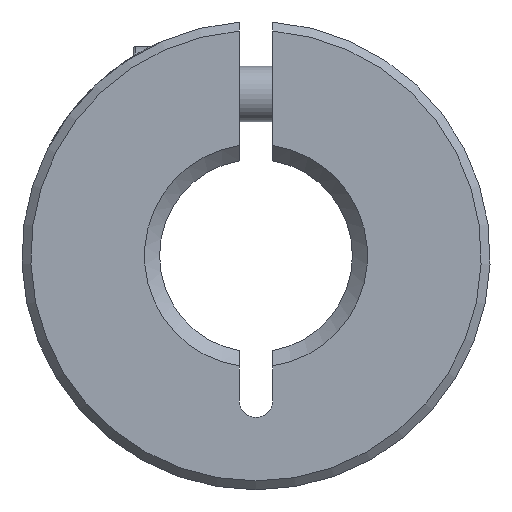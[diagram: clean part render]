
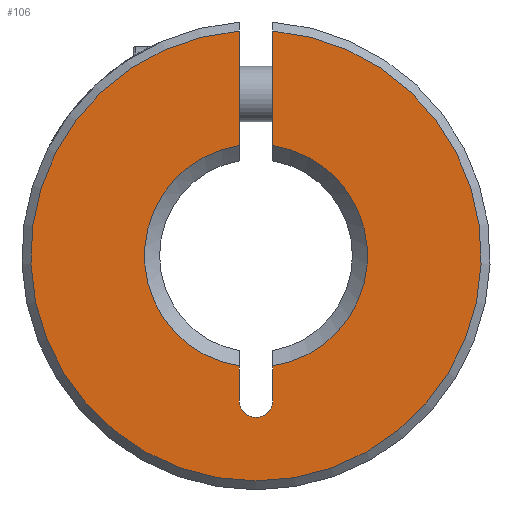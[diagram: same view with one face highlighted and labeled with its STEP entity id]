
A CAD part, left-side view. The second image highlights one B-rep face of the part: STEP entity #106.
In plain terms, the highlighted planar face has unit normal (-1, 0, 0).
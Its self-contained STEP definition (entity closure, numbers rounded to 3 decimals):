
#106 = ADVANCED_FACE( '', ( #180 ), #181, .F. );
#180 = FACE_OUTER_BOUND( '', #257, .T. );
#181 = PLANE( '', #258 );
#257 = EDGE_LOOP( '', ( #490, #491, #492, #493, #494, #495, #496, #497 ) );
#258 = AXIS2_PLACEMENT_3D( '', #498, #499, #500 );
#490 = ORIENTED_EDGE( '', *, *, #578, .T. );
#491 = ORIENTED_EDGE( '', *, *, #545, .T. );
#492 = ORIENTED_EDGE( '', *, *, #554, .T. );
#493 = ORIENTED_EDGE( '', *, *, #536, .F. );
#494 = ORIENTED_EDGE( '', *, *, #532, .T. );
#495 = ORIENTED_EDGE( '', *, *, #541, .T. );
#496 = ORIENTED_EDGE( '', *, *, #516, .T. );
#497 = ORIENTED_EDGE( '', *, *, #580, .T. );
#498 = CARTESIAN_POINT( '', ( -7.5, 0., 0. ) );
#499 = DIRECTION( '', ( 1., 0., 0. ) );
#500 = DIRECTION( '', ( 0., 0., -1. ) );
#516 = EDGE_CURVE( '', #609, #607, #610, .T. );
#532 = EDGE_CURVE( '', #626, #639, #641, .T. );
#536 = EDGE_CURVE( '', #626, #647, #648, .T. );
#541 = EDGE_CURVE( '', #639, #609, #654, .T. );
#545 = EDGE_CURVE( '', #661, #659, #662, .T. );
#554 = EDGE_CURVE( '', #659, #647, #673, .T. );
#578 = EDGE_CURVE( '', #714, #661, #715, .T. );
#580 = EDGE_CURVE( '', #607, #714, #717, .T. );
#607 = VERTEX_POINT( '', #734 );
#609 = VERTEX_POINT( '', #737 );
#610 = LINE( '', #738, #739 );
#626 = VERTEX_POINT( '', #837 );
#639 = VERTEX_POINT( '', #862 );
#641 = LINE( '', #867, #868 );
#647 = VERTEX_POINT( '', #877 );
#648 = CIRCLE( '', #878, 20.2 );
#654 = CIRCLE( '', #888, 10. );
#659 = VERTEX_POINT( '', #893 );
#661 = VERTEX_POINT( '', #898 );
#662 = CIRCLE( '', #899, 10. );
#673 = LINE( '', #917, #918 );
#714 = VERTEX_POINT( '', #977 );
#715 = LINE( '', #978, #979 );
#717 = CIRCLE( '', #982, 1.5 );
#734 = CARTESIAN_POINT( '', ( -7.5, -1.5, -13. ) );
#737 = CARTESIAN_POINT( '', ( -7.5, -1.5, -9.887 ) );
#738 = CARTESIAN_POINT( '', ( -7.5, -1.5, 0. ) );
#739 = VECTOR( '', #992, 1000. );
#837 = CARTESIAN_POINT( '', ( -7.5, -1.5, 20.144 ) );
#862 = CARTESIAN_POINT( '', ( -7.5, -1.5, 9.887 ) );
#867 = CARTESIAN_POINT( '', ( -7.5, -1.5, 28. ) );
#868 = VECTOR( '', #1008, 1000. );
#877 = CARTESIAN_POINT( '', ( -7.5, 1.5, 20.144 ) );
#878 = AXIS2_PLACEMENT_3D( '', #1015, #1016, #1017 );
#888 = AXIS2_PLACEMENT_3D( '', #1025, #1026, #1027 );
#893 = CARTESIAN_POINT( '', ( -7.5, 1.5, 9.887 ) );
#898 = CARTESIAN_POINT( '', ( -7.5, 1.5, -9.887 ) );
#899 = AXIS2_PLACEMENT_3D( '', #1034, #1035, #1036 );
#917 = CARTESIAN_POINT( '', ( -7.5, 1.5, 0. ) );
#918 = VECTOR( '', #1050, 1000. );
#977 = CARTESIAN_POINT( '', ( -7.5, 1.5, -13. ) );
#978 = CARTESIAN_POINT( '', ( -7.5, 1.5, -13. ) );
#979 = VECTOR( '', #1084, 1000. );
#982 = AXIS2_PLACEMENT_3D( '', #1086, #1087, #1088 );
#992 = DIRECTION( '', ( 0., 0., -1. ) );
#1008 = DIRECTION( '', ( 0., 0., -1. ) );
#1015 = CARTESIAN_POINT( '', ( -7.5, 0., 0. ) );
#1016 = DIRECTION( '', ( 1., 0., 0. ) );
#1017 = DIRECTION( '', ( 0., 0., -1. ) );
#1025 = CARTESIAN_POINT( '', ( -7.5, 0., 0. ) );
#1026 = DIRECTION( '', ( 1., 0., 0. ) );
#1027 = DIRECTION( '', ( 0., 0., -1. ) );
#1034 = CARTESIAN_POINT( '', ( -7.5, 0., 0. ) );
#1035 = DIRECTION( '', ( 1., 0., 0. ) );
#1036 = DIRECTION( '', ( 0., 0., -1. ) );
#1050 = DIRECTION( '', ( 0., 0., 1. ) );
#1084 = DIRECTION( '', ( 0., 0., 1. ) );
#1086 = CARTESIAN_POINT( '', ( -7.5, 0., -13. ) );
#1087 = DIRECTION( '', ( 1., 0., 0. ) );
#1088 = DIRECTION( '', ( 0., 0., -1. ) );
